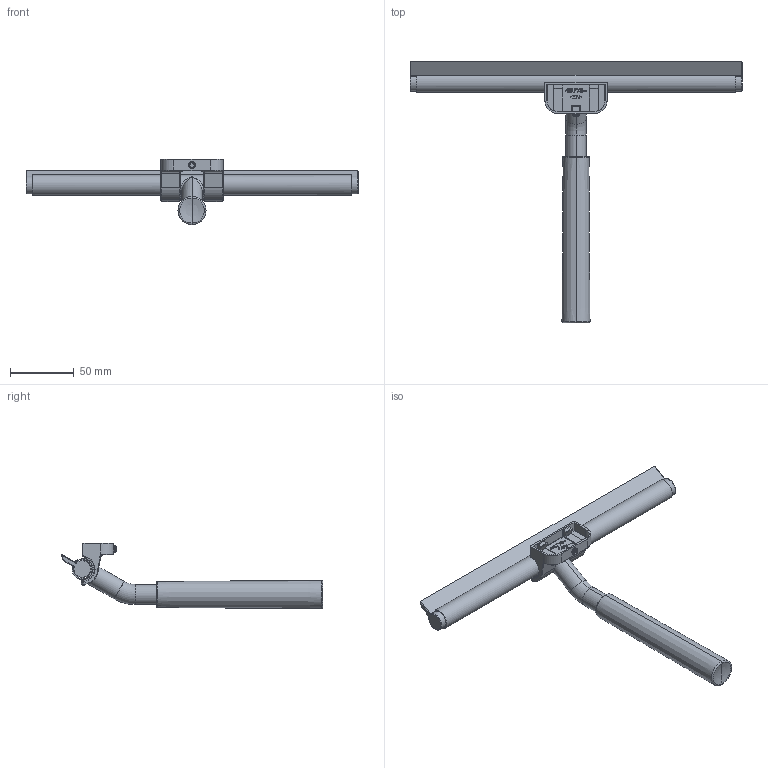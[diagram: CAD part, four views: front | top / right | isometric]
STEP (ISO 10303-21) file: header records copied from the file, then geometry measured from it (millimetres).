
FILE_DESCRIPTION((''),'2;1');
FILE_NAME('48746--00_SUB01_ASM','2024-10-25T10:52:02',('clra1'),(''),'CREO PARAMETRIC BY PTC INC, 2022244','CREO PARAMETRIC BY PTC INC, 2022244','');
FILE_SCHEMA(('CONFIG_CONTROL_DESIGN'));
Length unit declared in the file: millimetre
Products named in the file (8): 46761--; 4676200; 4676300; 46778--; 4677900; 4675100; 46778--_SUB01_ASM; 48746--00_SUB01_ASM
Assembly tree (8 placements, depth 3):
  48746--00_SUB01_ASM
    46761--
    4676200
    4676300
    46778--_SUB01_ASM
      46778--
      4677900  x2
      4675100
Bounding box: 260 x 204.63 x 51 mm (x, y, z)
Volume: 93800 mm3; surface area: 81581.1 mm2
Topology: 7 solids, 7 shells, 578 faces, 1445 edges, 897 vertices
Faces by surface type: plane 280, cylinder 177, torus 54, sphere 26, bspline 22, cone 18, extrusion 1
Entity records: 20932 total; most frequent: CARTESIAN_POINT 7286, ORIENTED_EDGE 2822, DIRECTION 2800, EDGE_CURVE 1411, AXIS2_PLACEMENT_3D 938, VECTOR 924, LINE 923, VERTEX_POINT 877
